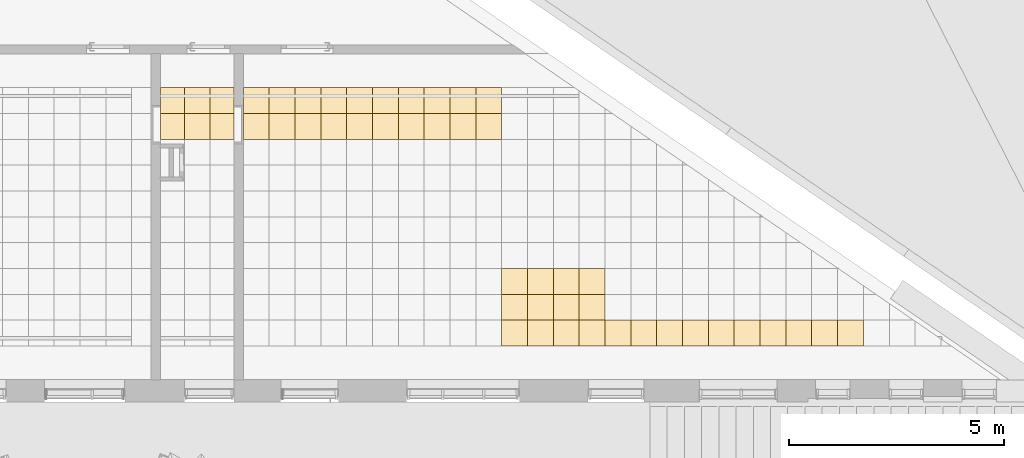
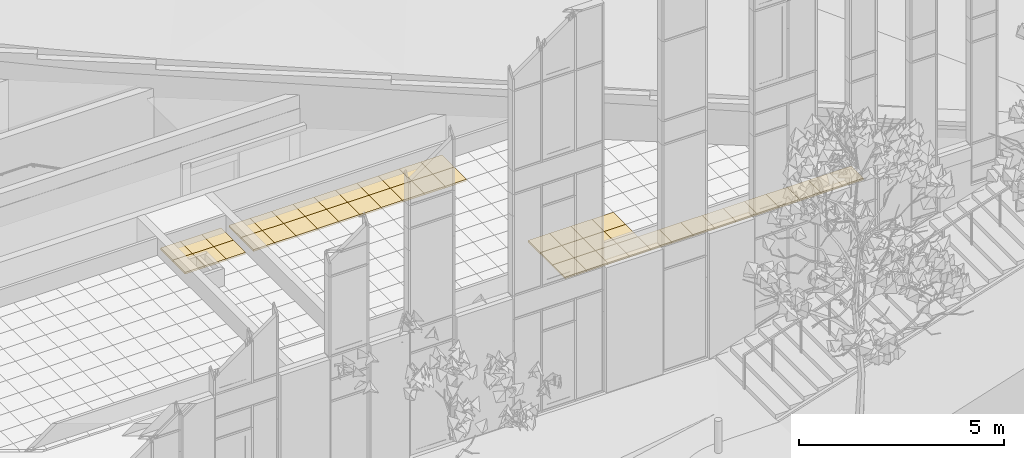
# One storey, part 198 of 246: 48 coverings.
"""IFC2X3 building model written with IfcOpenShell, lengths in millimetres."""

import ifcopenshell
import ifcopenshell.guid

model = None  # the IFC model being written
_history = None  # IfcOwnerHistory: only IFC2X3 demands one
_inside = {}  # id of a spatial element -> (the spatial element, [elements in it])
_under = {}  # id of a project, library or spatial element -> (it, [spatial elements below it])
_declared = {}  # id of a project -> (the project, [libraries it declares])
_typed = {}  # id of a type object -> (the type object, [elements of that type])
_made_of = {}  # id of a material, layer set ... -> (it, [elements and type objects made of it])


def new_model(schema):
    """Start an empty IFC model of exactly this schema.

    Asked for "IFC4X3", IfcOpenShell would pick the latest addendum, in which some entities
    have other attributes; the version numbers below select the first issue.
    IFC2X3 requires an IfcOwnerHistory on every rooted entity: one is made here for all.
    """
    global model, _history
    if schema == "IFC4X3":
        model = ifcopenshell.file(schema_version=(4, 3, 0, 0))
    else:
        model = ifcopenshell.file(schema=schema)
    _inside.clear()
    _under.clear()
    _declared.clear()
    _typed.clear()
    _made_of.clear()
    _history = None
    if model.schema == "IFC2X3":
        org = make("IfcOrganization", Name="unknown")
        user = make(
            "IfcPersonAndOrganization",
            ThePerson=make("IfcPerson", FamilyName="unknown"),
            TheOrganization=org,
        )
        app = make(
            "IfcApplication",
            ApplicationDeveloper=org,
            Version="unknown",
            ApplicationFullName="unknown",
            ApplicationIdentifier="unknown",
        )
        _history = make(
            "IfcOwnerHistory",
            OwningUser=user,
            OwningApplication=app,
            ChangeAction="ADDED",
            CreationDate=0,
        )
    return model


def make(cls, **values):
    """One entity of the class cls with the attributes given. An attribute that is None is left unset."""
    return model.create_entity(
        cls, **{name: value for name, value in values.items() if value is not None}
    )


def entity(cls, *values):
    """Any entity or typed value of the class cls, its attributes in the order of the schema. None: left unset."""
    e = model.create_entity(cls)
    for i, value in enumerate(values):
        if value is not None:
            e[i] = value
    return e


def rooted(cls, **values):
    """An entity with a GlobalId (a new one), such as an element, a storey or a relation."""
    return make(cls, GlobalId=ifcopenshell.guid.new(), OwnerHistory=_history, **values)


def si_unit(unit_type, name, prefix=None):
    """IfcSIUnit, for example si_unit("LENGTHUNIT", "METRE", prefix="MILLI")."""
    return make("IfcSIUnit", UnitType=unit_type, Prefix=prefix, Name=name)


def converted_unit(unit_type, name, factor, base, dimensions=None, offset=None):
    """IfcConversionBasedUnit, such as the inch: factor (a typed value) times the base unit."""
    return make(
        "IfcConversionBasedUnit"
        if offset is None
        else "IfcConversionBasedUnitWithOffset",
        ConversionOffset=offset,
        Dimensions=None
        if dimensions is None
        else entity("IfcDimensionalExponents", *dimensions),
        UnitType=unit_type,
        Name=name,
        ConversionFactor=make(
            "IfcMeasureWithUnit", ValueComponent=factor, UnitComponent=base
        ),
    )


def derived_unit(unit_type, elements):
    """IfcDerivedUnit: a product of units, each with its exponent."""
    return make(
        "IfcDerivedUnit",
        Elements=[
            make("IfcDerivedUnitElement", Unit=unit, Exponent=power)
            for unit, power in elements
        ],
        UnitType=unit_type,
    )


def money_unit(currency):
    """IfcMonetaryUnit."""
    return make("IfcMonetaryUnit", Currency=currency)


def assignment(units):
    """IfcUnitAssignment: the units of a project."""
    return None if units is None else make("IfcUnitAssignment", Units=units)


def point(xyz):
    """IfcCartesianPoint."""
    return None if xyz is None else make("IfcCartesianPoint", Coordinates=xyz)


def direction(xyz):
    """IfcDirection."""
    return None if xyz is None else make("IfcDirection", DirectionRatios=xyz)


def frame(location, z_axis=None, x_axis=None):
    """IfcAxis2Placement3D, a coordinate frame: its origin and axes. An axis left out is left unset."""
    return make(
        "IfcAxis2Placement3D",
        Location=point(location),
        Axis=direction(z_axis),
        RefDirection=direction(x_axis),
    )


def origin_with_axes():
    """The frame at (0, 0, 0) with the z axis (0, 0, 1) and the x axis (1, 0, 0) written out."""
    return frame((0.0, 0.0, 0.0), z_axis=(0.0, 0.0, 1.0), x_axis=(1.0, 0.0, 0.0))


def place(relative_to, where):
    """IfcLocalPlacement: puts the frame where relative to a parent placement (None: the world)."""
    return make(
        "IfcLocalPlacement", PlacementRelTo=relative_to, RelativePlacement=where
    )


def context(
    kind, dimensions, precision=None, world=None, true_north=None, identifier=None
):
    """IfcGeometricRepresentationContext, for example the 3D "Model" context."""
    return make(
        "IfcGeometricRepresentationContext",
        ContextIdentifier=identifier,
        ContextType=kind,
        CoordinateSpaceDimension=dimensions,
        Precision=precision,
        WorldCoordinateSystem=world,
        TrueNorth=true_north,
    )


def subcontext(parent, identifier, kind, view, scale=None):
    """IfcGeometricRepresentationSubContext, for example "Body" below "Model"."""
    return make(
        "IfcGeometricRepresentationSubContext",
        ContextIdentifier=identifier,
        ContextType=kind,
        ParentContext=parent,
        TargetScale=scale,
        TargetView=view,
    )


def project(units=None, contexts=None):
    """IfcProject with its units and contexts."""
    return rooted(
        "IfcProject",
        Name="project",
        RepresentationContexts=contexts,
        UnitsInContext=assignment(units),
    )


def spatial(cls, under=None, at=None, **own):
    """A site, building, storey or space (cls), placed at a placement, below another one or the project."""
    s = rooted(cls, ObjectPlacement=at, **own)
    if under is not None:
        _under.setdefault(under.id(), (under, []))[1].append(s)
    return s


def faces_of(points, faces, orient=None, outer=None):
    """IfcFace entities. A face is a list of loops; a loop is a list of indices into points, from 0.

    orient and outer hold one flag for each loop. By default every Orientation is true, the
    first loop of a face is its IfcFaceOuterBound and the others are IfcFaceBound.
    """
    made = []
    for i, loops in enumerate(faces):
        bounds = []
        for j, loop in enumerate(loops):
            is_outer = j == 0 if outer is None else outer[i][j]
            bounds.append(
                make(
                    "IfcFaceOuterBound" if is_outer else "IfcFaceBound",
                    Bound=make("IfcPolyLoop", Polygon=[points[k] for k in loop]),
                    Orientation=True if orient is None else orient[i][j],
                )
            )
        made.append(make("IfcFace", Bounds=bounds))
    return made


def faceted_brep(points, faces, orient=None, outer=None, voids=None):
    """IfcFacetedBrep: a solid bounded by flat faces; with voids (closed shells), ...WithVoids."""
    shared = [point(p) for p in points]
    hull = make("IfcClosedShell", CfsFaces=faces_of(shared, faces, orient, outer))
    if voids is None:
        return make("IfcFacetedBrep", Outer=hull)
    return make(
        "IfcFacetedBrepWithVoids",
        Outer=hull,
        Voids=[
            make(cls, CfsFaces=faces_of(shared, fs, o, b)) for cls, fs, o, b in voids
        ],
    )


def shape(context_of_items, identifier, shape_type, items):
    """IfcShapeRepresentation: the items that make up one representation, for example the "Body"."""
    return make(
        "IfcShapeRepresentation",
        ContextOfItems=context_of_items,
        RepresentationIdentifier=identifier,
        RepresentationType=shape_type,
        Items=items,
    )


def material(Name=None, Category=None):
    """IfcMaterial."""
    return make("IfcMaterial", Name=Name, Category=Category)


def material_list(materials):
    """IfcMaterialList."""
    return make("IfcMaterialList", Materials=materials)


def made_of(thing, what):
    """Note that an element or type object is made of a material, layer set ...; save() writes the relation."""
    if what is not None:
        _made_of.setdefault(what.id(), (what, []))[1].append(thing)
    return thing


def type_object(cls, material=None, **own):
    """A type object (cls), such as IfcWallType, which elements share."""
    return made_of(rooted(cls, **own), material)


def element(
    cls,
    number,
    at=None,
    inside=None,
    cuts=None,
    type_object=None,
    material=None,
    context=None,
    identifier="Body",
    shape_type=None,
    held_by="IfcProductDefinitionShape",
    body=None,
    shapes=None,
    **own,
):
    """One element of the class cls, such as IfcWall. Its Tag is "e" and its number.

    at: its placement. inside: the storey or other place that contains it. cuts: it is an
    opening in that element (IfcRelVoidsElement). A single representation is given by context,
    identifier, shape_type and body (its items); several are given by shapes. held_by: the class
    of the entity that holds the representations. save() writes the other relations.
    """
    e = rooted(cls, Tag="e%d" % number, ObjectPlacement=at, **own)
    if body is not None:
        shapes = [shape(context, identifier, shape_type, body)]
    if shapes is not None:
        e.Representation = make(held_by, Representations=shapes)
    if inside is not None:
        _inside.setdefault(inside.id(), (inside, []))[1].append(e)
    if cuts is not None:
        rooted(
            "IfcRelVoidsElement", RelatingBuildingElement=cuts, RelatedOpeningElement=e
        )
    if type_object is not None:
        _typed.setdefault(type_object.id(), (type_object, []))[1].append(e)
    return made_of(e, material)


def aggregate(whole, parts):
    """IfcRelAggregates: a whole, such as a stair, and the parts it consists of."""
    return rooted("IfcRelAggregates", RelatingObject=whole, RelatedObjects=parts)


def save(model, path):
    """Write the relations noted so far, then the file.

    IfcRelAggregates (storeys below a building ...), IfcRelContainedInSpatialStructure (elements
    in a storey), IfcRelDefinesByType, IfcRelAssociatesMaterial and IfcRelDeclares: one each for
    every whole, place, type object, material and project.
    """
    for whole, parts in _under.values():
        aggregate(whole, parts)
    for where, things in _inside.values():
        rooted(
            "IfcRelContainedInSpatialStructure",
            RelatedElements=things,
            RelatingStructure=where,
        )
    for kind, things in _typed.values():
        rooted("IfcRelDefinesByType", RelatedObjects=things, RelatingType=kind)
    for what, things in _made_of.values():
        rooted("IfcRelAssociatesMaterial", RelatedObjects=things, RelatingMaterial=what)
    for by, libraries in _declared.values():
        rooted("IfcRelDeclares", RelatingContext=by, RelatedDefinitions=libraries)
    model.write(path)


model = new_model("IFC2X3")

# Units and contexts
model_context = context("Model", 3, precision=0.01, world=origin_with_axes(), true_north=direction((0.0, 1.0)))
body_context = subcontext(model_context, "Body", "Model", "MODEL_VIEW")
ifc_project = project(units=[si_unit("LENGTHUNIT", "METRE", prefix="MILLI"), si_unit("AREAUNIT", "SQUARE_METRE"), si_unit("VOLUMEUNIT", "CUBIC_METRE"), converted_unit("PLANEANGLEUNIT", "DEGREE", entity("IfcPlaneAngleMeasure", 0.0174532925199), si_unit("PLANEANGLEUNIT", "RADIAN"), dimensions=[0, 0, 0, 0, 0, 0, 0]), si_unit("SOLIDANGLEUNIT", "STERADIAN"), money_unit("EUR"), converted_unit("TIMEUNIT", "Year", entity("IfcTimeMeasure", 31556926.0), si_unit("TIMEUNIT", "SECOND"), dimensions=[0, 0, 1, 0, 0, 0, 0]), si_unit("MASSUNIT", "GRAM", prefix="KILO"), si_unit("THERMODYNAMICTEMPERATUREUNIT", "DEGREE_CELSIUS"), si_unit("LUMINOUSINTENSITYUNIT", "LUMEN"), si_unit("ENERGYUNIT", "JOULE", prefix="MEGA"), derived_unit("THERMALCONDUCTANCEUNIT", [(si_unit("POWERUNIT", "WATT"), 1), (si_unit("LENGTHUNIT", "METRE"), -1), (si_unit("THERMODYNAMICTEMPERATUREUNIT", "KELVIN"), -1)]), derived_unit("SPECIFICHEATCAPACITYUNIT", [(si_unit("ENERGYUNIT", "JOULE"), 1), (si_unit("MASSUNIT", "GRAM", prefix="KILO"), -1), (si_unit("THERMODYNAMICTEMPERATUREUNIT", "KELVIN"), -1)]), derived_unit("MASSDENSITYUNIT", [(si_unit("MASSUNIT", "GRAM", prefix="KILO"), 1), (si_unit("VOLUMEUNIT", "CUBIC_METRE"), -1)])], contexts=[model_context])

# Site, building, storey
site_placement = place(None, origin_with_axes())
site = spatial("IfcSite", under=ifc_project, at=site_placement, Name="L.Koidula tn 11b", CompositionType="ELEMENT")
building_placement = place(site_placement, origin_with_axes())
building = spatial("IfcBuilding", under=site, at=building_placement, Name="Rakvere Riigigümnaasium", CompositionType="ELEMENT")
storey_placement = place(building_placement, origin_with_axes())
storey = spatial("IfcBuildingStorey", under=building, at=storey_placement, Name="1.korrus 0,00", CompositionType="ELEMENT", Elevation=0.0)

# Coverings
ifc_material_1 = material(Name="Karkass")
ifc_material_2 = material(Name="Kipsplaat")
ifc_material_list = material_list([ifc_material_1, ifc_material_2])
covering_type = type_object("IfcCoveringType", Name="SA-LV-Kips-moodul 55", PredefinedType="CEILING")
covering_1_placement = place(storey_placement, frame((83189.6975144, 12290.4544728, 2750.0), z_axis=(0.0, 0.0, 1.0), x_axis=(1.0, 0.0, 0.0)))
element("IfcCovering", 1, at=covering_1_placement, inside=storey, type_object=covering_type, material=ifc_material_list, Name="L-03", PredefinedType="CEILING", context=body_context, shape_type="Brep", body=[
    faceted_brep([(0.0, -600.000009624, 12.5), (0.0, -600.000009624, 54.5), (0.0, 0.0, 54.5), (0.0, 0.0, 12.5), (550.000008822, -600.000009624, 12.5), (550.000008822, -600.000009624, 54.5), (550.000008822, 0.0, 54.5), (550.000008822, 0.0, 12.5)], [[[0, 1, 2, 3]], [[4, 5, 1, 0]], [[2, 1, 5, 6]], [[3, 2, 6, 7]], [[3, 7, 4, 0]], [[7, 6, 5, 4]]]),
    faceted_brep([(0.0, 0.0, 0.0), (0.0, -600.000009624, 0.0), (0.0, -600.000009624, 12.5), (0.0, 0.0, 12.5), (550.000008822, 0.0, 0.0), (550.000008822, -600.000009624, 0.0), (550.000008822, -600.000009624, 12.5), (550.000008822, 0.0, 12.5)], [[[0, 1, 2, 3]], [[0, 4, 5, 1]], [[1, 5, 6, 2]], [[3, 2, 6, 7]], [[4, 0, 3, 7]], [[5, 4, 7, 6]]]),
])
covering_2_placement = place(storey_placement, frame((84339.6975008, 12290.4544728, 2750.0), z_axis=(0.0, 0.0, 1.0), x_axis=(1.0, 0.0, 0.0)))
element("IfcCovering", 2, at=covering_2_placement, inside=storey, type_object=covering_type, material=ifc_material_list, Name="L-03", PredefinedType="CEILING", context=body_context, shape_type="Brep", body=[
    faceted_brep([(-600.000009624, 0.0, 12.5), (-600.000009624, 0.0, 54.5), (0.0, 0.0, 54.5), (0.0, 0.0, 12.5), (-600.000009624, -600.000009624, 12.5), (-600.000009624, -600.000009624, 54.5), (0.0, -600.000009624, 54.5), (0.0, -600.000009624, 12.5)], [[[0, 1, 2, 3]], [[4, 5, 1, 0]], [[2, 1, 5, 6]], [[3, 2, 6, 7]], [[3, 7, 4, 0]], [[7, 6, 5, 4]]]),
    faceted_brep([(0.0, 0.0, 0.0), (-600.000009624, 0.0, 0.0), (-600.000009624, 0.0, 12.5), (0.0, 0.0, 12.5), (0.0, -600.000009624, 0.0), (-600.000009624, -600.000009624, 0.0), (-600.000009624, -600.000009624, 12.5), (0.0, -600.000009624, 12.5)], [[[0, 1, 2, 3]], [[0, 4, 5, 1]], [[1, 5, 6, 2]], [[3, 2, 6, 7]], [[4, 0, 3, 7]], [[5, 4, 7, 6]]]),
])
covering_3_placement = place(storey_placement, frame((84339.697518, 11690.4544728, 2750.0), z_axis=(0.0, 0.0, 1.0), x_axis=(1.0, 0.0, 0.0)))
element("IfcCovering", 3, at=covering_3_placement, inside=storey, type_object=covering_type, material=ifc_material_list, Name="L-03", PredefinedType="CEILING", context=body_context, shape_type="Brep", body=[
    faceted_brep([(-600.000009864, 0.0, 12.5), (-600.000009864, 0.0, 54.5), (0.0, 0.0, 54.5), (0.0, 0.0, 12.5), (-600.000009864, -600.000009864, 12.5), (-600.000009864, -600.000009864, 54.5), (0.0, -600.000009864, 54.5), (0.0, -600.000009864, 12.5)], [[[0, 1, 2, 3]], [[4, 5, 1, 0]], [[2, 1, 5, 6]], [[3, 2, 6, 7]], [[3, 7, 4, 0]], [[7, 6, 5, 4]]]),
    faceted_brep([(0.0, 0.0, 0.0), (-600.000009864, 0.0, 0.0), (-600.000009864, 0.0, 12.5), (0.0, 0.0, 12.5), (0.0, -600.000009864, 0.0), (-600.000009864, -600.000009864, 0.0), (-600.000009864, -600.000009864, 12.5), (0.0, -600.000009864, 12.5)], [[[0, 1, 2, 3]], [[0, 4, 5, 1]], [[1, 5, 6, 2]], [[3, 2, 6, 7]], [[4, 0, 3, 7]], [[5, 4, 7, 6]]]),
])
covering_4_placement = place(storey_placement, frame((83189.6975068, 11690.4544728, 2750.0), z_axis=(0.0, 0.0, 1.0), x_axis=(1.0, 0.0, 0.0)))
element("IfcCovering", 4, at=covering_4_placement, inside=storey, type_object=covering_type, material=ifc_material_list, Name="L-03", PredefinedType="CEILING", context=body_context, shape_type="Brep", body=[
    faceted_brep([(0.0, -600.000009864, 12.5), (0.0, -600.000009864, 54.5), (0.0, 0.0, 54.5), (0.0, 0.0, 12.5), (550.000001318, -600.000009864, 12.5), (550.000001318, -600.000009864, 54.5), (550.000001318, 0.0, 54.5), (550.000001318, 0.0, 12.5)], [[[0, 1, 2, 3]], [[4, 5, 1, 0]], [[2, 1, 5, 6]], [[3, 2, 6, 7]], [[3, 7, 4, 0]], [[7, 6, 5, 4]]]),
    faceted_brep([(0.0, 0.0, 0.0), (0.0, -600.000009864, 0.0), (0.0, -600.000009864, 12.5), (0.0, 0.0, 12.5), (550.000001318, 0.0, 0.0), (550.000001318, -600.000009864, 0.0), (550.000001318, -600.000009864, 12.5), (550.000001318, 0.0, 12.5)], [[[0, 1, 2, 3]], [[0, 4, 5, 1]], [[1, 5, 6, 2]], [[3, 2, 6, 7]], [[4, 0, 3, 7]], [[5, 4, 7, 6]]]),
])
covering_5_placement = place(storey_placement, frame((84889.6975096, 12290.4544728, 2750.0), z_axis=(0.0, 0.0, 1.0), x_axis=(1.0, 0.0, 0.0)))
element("IfcCovering", 5, at=covering_5_placement, inside=storey, type_object=covering_type, material=ifc_material_list, Name="L-03", PredefinedType="CEILING", context=body_context, shape_type="Brep", body=[
    faceted_brep([(-550.000008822, 0.0, 12.5), (-550.000008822, 0.0, 54.5), (0.0, 0.0, 54.5), (0.0, 0.0, 12.5), (-550.000008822, -600.000009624, 12.5), (-550.000008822, -600.000009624, 54.5), (0.0, -600.000009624, 54.5), (0.0, -600.000009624, 12.5)], [[[0, 1, 2, 3]], [[4, 5, 1, 0]], [[2, 1, 5, 6]], [[3, 2, 6, 7]], [[3, 7, 4, 0]], [[7, 6, 5, 4]]]),
    faceted_brep([(0.0, 0.0, 0.0), (-550.000008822, 0.0, 0.0), (-550.000008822, 0.0, 12.5), (0.0, 0.0, 12.5), (0.0, -600.000009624, 0.0), (-550.000008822, -600.000009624, 0.0), (-550.000008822, -600.000009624, 12.5), (0.0, -600.000009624, 12.5)], [[[0, 1, 2, 3]], [[0, 4, 5, 1]], [[1, 5, 6, 2]], [[3, 2, 6, 7]], [[4, 0, 3, 7]], [[5, 4, 7, 6]]]),
])
covering_6_placement = place(storey_placement, frame((84889.6975109, 11690.4544735, 2750.0), z_axis=(0.0, 0.0, 1.0), x_axis=(1.0, 0.0, 0.0)))
element("IfcCovering", 6, at=covering_6_placement, inside=storey, type_object=covering_type, material=ifc_material_list, Name="L-03", PredefinedType="CEILING", context=body_context, shape_type="Brep", body=[
    faceted_brep([(-550.0, 0.0, 12.5), (-550.0, 0.0, 54.5), (0.0, 0.0, 54.5), (0.0, 0.0, 12.5), (-550.0, -600.0, 12.5), (-550.0, -600.0, 54.5), (0.0, -600.0, 54.5), (0.0, -600.0, 12.5)], [[[0, 1, 2, 3]], [[4, 5, 1, 0]], [[2, 1, 5, 6]], [[3, 2, 6, 7]], [[3, 7, 4, 0]], [[7, 6, 5, 4]]]),
    faceted_brep([(0.0, 0.0, 0.0), (-550.0, 0.0, 0.0), (-550.0, 0.0, 12.5), (0.0, 0.0, 12.5), (0.0, -600.0, 0.0), (-550.0, -600.0, 0.0), (-550.0, -600.0, 12.5), (0.0, -600.0, 12.5)], [[[0, 1, 2, 3]], [[0, 4, 5, 1]], [[1, 5, 6, 2]], [[3, 2, 6, 7]], [[4, 0, 3, 7]], [[5, 4, 7, 6]]]),
])
for number, where, z_axis, x_axis, name in (
    (7, (85709.885345, 11090.4535941, 2750.0), (0.0, 0.0, 1.0), (1.0, 0.0, 0.0), "L-03"),
    (8, (85709.885345, 11690.4535941, 2750.0), (0.0, 0.0, 1.0), (1.0, 0.0, 0.0), "L-03"),
):
    element("IfcCovering", number, at=place(storey_placement, frame(where, z_axis=z_axis, x_axis=x_axis)), inside=storey, type_object=covering_type, material=ifc_material_list, Name=name, PredefinedType="CEILING", context=body_context, shape_type="Brep", body=[
        faceted_brep([(599.999948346, 0.0, 12.5), (599.999948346, 0.0, 54.5), (0.0, 0.0, 54.5), (0.0, 0.0, 12.5), (599.999948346, 600.0, 12.5), (599.999948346, 600.0, 54.5), (0.0, 600.0, 54.5), (0.0, 600.0, 12.5)], [[[0, 1, 2, 3]], [[4, 5, 1, 0]], [[2, 1, 5, 6]], [[3, 2, 6, 7]], [[3, 7, 4, 0]], [[7, 6, 5, 4]]]),
        faceted_brep([(0.0, 0.0, 0.0), (599.999948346, 0.0, 0.0), (599.999948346, 0.0, 12.5), (0.0, 0.0, 12.5), (0.0, 600.0, 0.0), (599.999948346, 600.0, 0.0), (599.999948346, 600.0, 12.5), (0.0, 600.0, 12.5)], [[[0, 1, 2, 3]], [[0, 4, 5, 1]], [[1, 5, 6, 2]], [[3, 2, 6, 7]], [[4, 0, 3, 7]], [[5, 4, 7, 6]]]),
    ])
for number, where, z_axis, x_axis, name in (
    (9, (85109.885345, 11090.4535941, 2750.0), (0.0, 0.0, 1.0), (1.0, 0.0, 0.0), "L-03"),
    (10, (85109.885345, 11690.4535941, 2750.0), (0.0, 0.0, 1.0), (1.0, 0.0, 0.0), "L-03"),
):
    element("IfcCovering", number, at=place(storey_placement, frame(where, z_axis=z_axis, x_axis=x_axis)), inside=storey, type_object=covering_type, material=ifc_material_list, Name=name, PredefinedType="CEILING", context=body_context, shape_type="Brep", body=[
        faceted_brep([(600.0, 0.0, 12.5), (600.0, 0.0, 54.5), (0.0, 0.0, 54.5), (0.0, 0.0, 12.5), (600.0, 600.0, 12.5), (600.0, 600.0, 54.5), (0.0, 600.0, 54.5), (0.0, 600.0, 12.5)], [[[0, 1, 2, 3]], [[4, 5, 1, 0]], [[2, 1, 5, 6]], [[3, 2, 6, 7]], [[3, 7, 4, 0]], [[7, 6, 5, 4]]]),
        faceted_brep([(0.0, 0.0, 0.0), (600.0, 0.0, 0.0), (600.0, 0.0, 12.5), (0.0, 0.0, 12.5), (0.0, 600.0, 0.0), (600.0, 600.0, 0.0), (600.0, 600.0, 12.5), (0.0, 600.0, 12.5)], [[[0, 1, 2, 3]], [[0, 4, 5, 1]], [[1, 5, 6, 2]], [[3, 2, 6, 7]], [[4, 0, 3, 7]], [[5, 4, 7, 6]]]),
    ])
for number, where, z_axis, x_axis, name in (
    (11, (86909.8852933, 11090.4535941, 2750.0), (0.0, 0.0, 1.0), (1.0, 0.0, 0.0), "L-03"),
    (12, (86909.8852933, 11690.4535941, 2750.0), (0.0, 0.0, 1.0), (1.0, 0.0, 0.0), "L-03"),
):
    element("IfcCovering", number, at=place(storey_placement, frame(where, z_axis=z_axis, x_axis=x_axis)), inside=storey, type_object=covering_type, material=ifc_material_list, Name=name, PredefinedType="CEILING", context=body_context, shape_type="Brep", body=[
        faceted_brep([(599.999948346, 0.0, 12.5), (599.999948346, 0.0, 54.5), (0.0, 0.0, 54.5), (0.0, 0.0, 12.5), (599.999948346, 600.0, 12.5), (599.999948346, 600.0, 54.5), (0.0, 600.0, 54.5), (0.0, 600.0, 12.5)], [[[0, 1, 2, 3]], [[4, 5, 1, 0]], [[2, 1, 5, 6]], [[3, 2, 6, 7]], [[3, 7, 4, 0]], [[7, 6, 5, 4]]]),
        faceted_brep([(0.0, 0.0, 0.0), (599.999948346, 0.0, 0.0), (599.999948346, 0.0, 12.5), (0.0, 0.0, 12.5), (0.0, 600.0, 0.0), (599.999948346, 600.0, 0.0), (599.999948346, 600.0, 12.5), (0.0, 600.0, 12.5)], [[[0, 1, 2, 3]], [[0, 4, 5, 1]], [[1, 5, 6, 2]], [[3, 2, 6, 7]], [[4, 0, 3, 7]], [[5, 4, 7, 6]]]),
    ])
for number, where, z_axis, x_axis, name in (
    (13, (86309.8852933, 11090.4535941, 2750.0), (0.0, 0.0, 1.0), (1.0, 0.0, 0.0), "L-03"),
    (14, (86309.8852933, 11690.4535941, 2750.0), (0.0, 0.0, 1.0), (1.0, 0.0, 0.0), "L-03"),
):
    element("IfcCovering", number, at=place(storey_placement, frame(where, z_axis=z_axis, x_axis=x_axis)), inside=storey, type_object=covering_type, material=ifc_material_list, Name=name, PredefinedType="CEILING", context=body_context, shape_type="Brep", body=[
        faceted_brep([(600.0, 0.0, 12.5), (600.0, 0.0, 54.5), (0.0, 0.0, 54.5), (0.0, 0.0, 12.5), (600.0, 600.0, 12.5), (600.0, 600.0, 54.5), (0.0, 600.0, 54.5), (0.0, 600.0, 12.5)], [[[0, 1, 2, 3]], [[4, 5, 1, 0]], [[2, 1, 5, 6]], [[3, 2, 6, 7]], [[3, 7, 4, 0]], [[7, 6, 5, 4]]]),
        faceted_brep([(0.0, 0.0, 0.0), (600.0, 0.0, 0.0), (600.0, 0.0, 12.5), (0.0, 0.0, 12.5), (0.0, 600.0, 0.0), (600.0, 600.0, 0.0), (600.0, 600.0, 12.5), (0.0, 600.0, 12.5)], [[[0, 1, 2, 3]], [[0, 4, 5, 1]], [[1, 5, 6, 2]], [[3, 2, 6, 7]], [[4, 0, 3, 7]], [[5, 4, 7, 6]]]),
    ])
for number, where, z_axis, x_axis, name in (
    (15, (88109.8852417, 11090.4535941, 2750.0), (0.0, 0.0, 1.0), (1.0, 0.0, 0.0), "L-03"),
    (16, (88109.8852417, 11690.4535941, 2750.0), (0.0, 0.0, 1.0), (1.0, 0.0, 0.0), "L-03"),
):
    element("IfcCovering", number, at=place(storey_placement, frame(where, z_axis=z_axis, x_axis=x_axis)), inside=storey, type_object=covering_type, material=ifc_material_list, Name=name, PredefinedType="CEILING", context=body_context, shape_type="Brep", body=[
        faceted_brep([(599.999948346, 0.0, 12.5), (599.999948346, 0.0, 54.5), (0.0, 0.0, 54.5), (0.0, 0.0, 12.5), (599.999948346, 600.0, 12.5), (599.999948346, 600.0, 54.5), (0.0, 600.0, 54.5), (0.0, 600.0, 12.5)], [[[0, 1, 2, 3]], [[4, 5, 1, 0]], [[2, 1, 5, 6]], [[3, 2, 6, 7]], [[3, 7, 4, 0]], [[7, 6, 5, 4]]]),
        faceted_brep([(0.0, 0.0, 0.0), (599.999948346, 0.0, 0.0), (599.999948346, 0.0, 12.5), (0.0, 0.0, 12.5), (0.0, 600.0, 0.0), (599.999948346, 600.0, 0.0), (599.999948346, 600.0, 12.5), (0.0, 600.0, 12.5)], [[[0, 1, 2, 3]], [[0, 4, 5, 1]], [[1, 5, 6, 2]], [[3, 2, 6, 7]], [[4, 0, 3, 7]], [[5, 4, 7, 6]]]),
    ])
for number, where, z_axis, x_axis, name in (
    (17, (87509.8852417, 11090.4535941, 2750.0), (0.0, 0.0, 1.0), (1.0, 0.0, 0.0), "L-03"),
    (18, (87509.8852417, 11690.4535941, 2750.0), (0.0, 0.0, 1.0), (1.0, 0.0, 0.0), "L-03"),
):
    element("IfcCovering", number, at=place(storey_placement, frame(where, z_axis=z_axis, x_axis=x_axis)), inside=storey, type_object=covering_type, material=ifc_material_list, Name=name, PredefinedType="CEILING", context=body_context, shape_type="Brep", body=[
        faceted_brep([(600.0, 0.0, 12.5), (600.0, 0.0, 54.5), (0.0, 0.0, 54.5), (0.0, 0.0, 12.5), (600.0, 600.0, 12.5), (600.0, 600.0, 54.5), (0.0, 600.0, 54.5), (0.0, 600.0, 12.5)], [[[0, 1, 2, 3]], [[4, 5, 1, 0]], [[2, 1, 5, 6]], [[3, 2, 6, 7]], [[3, 7, 4, 0]], [[7, 6, 5, 4]]]),
        faceted_brep([(0.0, 0.0, 0.0), (600.0, 0.0, 0.0), (600.0, 0.0, 12.5), (0.0, 0.0, 12.5), (0.0, 600.0, 0.0), (600.0, 600.0, 0.0), (600.0, 600.0, 12.5), (0.0, 600.0, 12.5)], [[[0, 1, 2, 3]], [[0, 4, 5, 1]], [[1, 5, 6, 2]], [[3, 2, 6, 7]], [[4, 0, 3, 7]], [[5, 4, 7, 6]]]),
    ])
for number, where, z_axis, x_axis, name in (
    (19, (89309.88519, 11090.4535941, 2750.0), (0.0, 0.0, 1.0), (1.0, 0.0, 0.0), "L-03"),
    (20, (89309.88519, 11690.4535941, 2750.0), (0.0, 0.0, 1.0), (1.0, 0.0, 0.0), "L-03"),
):
    element("IfcCovering", number, at=place(storey_placement, frame(where, z_axis=z_axis, x_axis=x_axis)), inside=storey, type_object=covering_type, material=ifc_material_list, Name=name, PredefinedType="CEILING", context=body_context, shape_type="Brep", body=[
        faceted_brep([(599.999948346, 0.0, 12.5), (599.999948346, 0.0, 54.5), (0.0, 0.0, 54.5), (0.0, 0.0, 12.5), (599.999948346, 600.0, 12.5), (599.999948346, 600.0, 54.5), (0.0, 600.0, 54.5), (0.0, 600.0, 12.5)], [[[0, 1, 2, 3]], [[4, 5, 1, 0]], [[2, 1, 5, 6]], [[3, 2, 6, 7]], [[3, 7, 4, 0]], [[7, 6, 5, 4]]]),
        faceted_brep([(0.0, 0.0, 0.0), (599.999948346, 0.0, 0.0), (599.999948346, 0.0, 12.5), (0.0, 0.0, 12.5), (0.0, 600.0, 0.0), (599.999948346, 600.0, 0.0), (599.999948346, 600.0, 12.5), (0.0, 600.0, 12.5)], [[[0, 1, 2, 3]], [[0, 4, 5, 1]], [[1, 5, 6, 2]], [[3, 2, 6, 7]], [[4, 0, 3, 7]], [[5, 4, 7, 6]]]),
    ])
for number, where, z_axis, x_axis, name in (
    (21, (88709.88519, 11090.4535941, 2750.0), (0.0, 0.0, 1.0), (1.0, 0.0, 0.0), "L-03"),
    (22, (88709.88519, 11690.4535941, 2750.0), (0.0, 0.0, 1.0), (1.0, 0.0, 0.0), "L-03"),
):
    element("IfcCovering", number, at=place(storey_placement, frame(where, z_axis=z_axis, x_axis=x_axis)), inside=storey, type_object=covering_type, material=ifc_material_list, Name=name, PredefinedType="CEILING", context=body_context, shape_type="Brep", body=[
        faceted_brep([(600.0, 0.0, 12.5), (600.0, 0.0, 54.5), (0.0, 0.0, 54.5), (0.0, 0.0, 12.5), (600.0, 600.0, 12.5), (600.0, 600.0, 54.5), (0.0, 600.0, 54.5), (0.0, 600.0, 12.5)], [[[0, 1, 2, 3]], [[4, 5, 1, 0]], [[2, 1, 5, 6]], [[3, 2, 6, 7]], [[3, 7, 4, 0]], [[7, 6, 5, 4]]]),
        faceted_brep([(0.0, 0.0, 0.0), (600.0, 0.0, 0.0), (600.0, 0.0, 12.5), (0.0, 0.0, 12.5), (0.0, 600.0, 0.0), (600.0, 600.0, 0.0), (600.0, 600.0, 12.5), (0.0, 600.0, 12.5)], [[[0, 1, 2, 3]], [[0, 4, 5, 1]], [[1, 5, 6, 2]], [[3, 2, 6, 7]], [[4, 0, 3, 7]], [[5, 4, 7, 6]]]),
    ])
for number, where, z_axis, x_axis, name in (
    (23, (90509.8851384, 11090.4535941, 2750.0), (0.0, 0.0, 1.0), (1.0, 0.0, 0.0), "L-03"),
    (24, (90509.8851384, 11690.4535941, 2750.0), (0.0, 0.0, 1.0), (1.0, 0.0, 0.0), "L-03"),
):
    element("IfcCovering", number, at=place(storey_placement, frame(where, z_axis=z_axis, x_axis=x_axis)), inside=storey, type_object=covering_type, material=ifc_material_list, Name=name, PredefinedType="CEILING", context=body_context, shape_type="Brep", body=[
        faceted_brep([(599.999948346, 0.0, 12.5), (599.999948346, 0.0, 54.5), (0.0, 0.0, 54.5), (0.0, 0.0, 12.5), (599.999948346, 600.0, 12.5), (599.999948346, 600.0, 54.5), (0.0, 600.0, 54.5), (0.0, 600.0, 12.5)], [[[0, 1, 2, 3]], [[4, 5, 1, 0]], [[2, 1, 5, 6]], [[3, 2, 6, 7]], [[3, 7, 4, 0]], [[7, 6, 5, 4]]]),
        faceted_brep([(0.0, 0.0, 0.0), (599.999948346, 0.0, 0.0), (599.999948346, 0.0, 12.5), (0.0, 0.0, 12.5), (0.0, 600.0, 0.0), (599.999948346, 600.0, 0.0), (599.999948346, 600.0, 12.5), (0.0, 600.0, 12.5)], [[[0, 1, 2, 3]], [[0, 4, 5, 1]], [[1, 5, 6, 2]], [[3, 2, 6, 7]], [[4, 0, 3, 7]], [[5, 4, 7, 6]]]),
    ])
for number, where, z_axis, x_axis, name in (
    (25, (89909.8851384, 11090.4535941, 2750.0), (0.0, 0.0, 1.0), (1.0, 0.0, 0.0), "L-03"),
    (26, (89909.8851384, 11690.4535941, 2750.0), (0.0, 0.0, 1.0), (1.0, 0.0, 0.0), "L-03"),
):
    element("IfcCovering", number, at=place(storey_placement, frame(where, z_axis=z_axis, x_axis=x_axis)), inside=storey, type_object=covering_type, material=ifc_material_list, Name=name, PredefinedType="CEILING", context=body_context, shape_type="Brep", body=[
        faceted_brep([(600.0, 0.0, 12.5), (600.0, 0.0, 54.5), (0.0, 0.0, 54.5), (0.0, 0.0, 12.5), (600.0, 600.0, 12.5), (600.0, 600.0, 54.5), (0.0, 600.0, 54.5), (0.0, 600.0, 12.5)], [[[0, 1, 2, 3]], [[4, 5, 1, 0]], [[2, 1, 5, 6]], [[3, 2, 6, 7]], [[3, 7, 4, 0]], [[7, 6, 5, 4]]]),
        faceted_brep([(0.0, 0.0, 0.0), (600.0, 0.0, 0.0), (600.0, 0.0, 12.5), (0.0, 0.0, 12.5), (0.0, 600.0, 0.0), (600.0, 600.0, 0.0), (600.0, 600.0, 12.5), (0.0, 600.0, 12.5)], [[[0, 1, 2, 3]], [[0, 4, 5, 1]], [[1, 5, 6, 2]], [[3, 2, 6, 7]], [[4, 0, 3, 7]], [[5, 4, 7, 6]]]),
    ])
for number, where, z_axis, x_axis, name in (
    (27, (91709.8850867, 7490.45359412, 2750.0), (0.0, 0.0, 1.0), (1.0, 0.0, 0.0), "L-03"),
    (28, (91709.8850867, 6290.45359412, 2750.0), (0.0, 0.0, 1.0), (1.0, 0.0, 0.0), "L-03"),
    (29, (91709.8850867, 6890.45359412, 2750.0), (0.0, 0.0, 1.0), (1.0, 0.0, 0.0), "L-03"),
):
    element("IfcCovering", number, at=place(storey_placement, frame(where, z_axis=z_axis, x_axis=x_axis)), inside=storey, type_object=covering_type, material=ifc_material_list, Name=name, PredefinedType="CEILING", context=body_context, shape_type="Brep", body=[
        faceted_brep([(599.999948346, 0.0, 12.5), (599.999948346, 0.0, 54.5), (0.0, 0.0, 54.5), (0.0, 0.0, 12.5), (599.999948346, 600.0, 12.5), (599.999948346, 600.0, 54.5), (0.0, 600.0, 54.5), (0.0, 600.0, 12.5)], [[[0, 1, 2, 3]], [[4, 5, 1, 0]], [[2, 1, 5, 6]], [[3, 2, 6, 7]], [[3, 7, 4, 0]], [[7, 6, 5, 4]]]),
        faceted_brep([(0.0, 0.0, 0.0), (599.999948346, 0.0, 0.0), (599.999948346, 0.0, 12.5), (0.0, 0.0, 12.5), (0.0, 600.0, 0.0), (599.999948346, 600.0, 0.0), (599.999948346, 600.0, 12.5), (0.0, 600.0, 12.5)], [[[0, 1, 2, 3]], [[0, 4, 5, 1]], [[1, 5, 6, 2]], [[3, 2, 6, 7]], [[4, 0, 3, 7]], [[5, 4, 7, 6]]]),
    ])
for number, where, z_axis, x_axis, name in (
    (30, (91109.8850867, 7490.45359412, 2750.0), (0.0, 0.0, 1.0), (1.0, 0.0, 0.0), "L-03"),
    (31, (91109.8850867, 6290.45359412, 2750.0), (0.0, 0.0, 1.0), (1.0, 0.0, 0.0), "L-03"),
    (32, (91109.8850867, 6890.45359412, 2750.0), (0.0, 0.0, 1.0), (1.0, 0.0, 0.0), "L-03"),
):
    element("IfcCovering", number, at=place(storey_placement, frame(where, z_axis=z_axis, x_axis=x_axis)), inside=storey, type_object=covering_type, material=ifc_material_list, Name=name, PredefinedType="CEILING", context=body_context, shape_type="Brep", body=[
        faceted_brep([(600.0, 0.0, 12.5), (600.0, 0.0, 54.5), (0.0, 0.0, 54.5), (0.0, 0.0, 12.5), (600.0, 600.0, 12.5), (600.0, 600.0, 54.5), (0.0, 600.0, 54.5), (0.0, 600.0, 12.5)], [[[0, 1, 2, 3]], [[4, 5, 1, 0]], [[2, 1, 5, 6]], [[3, 2, 6, 7]], [[3, 7, 4, 0]], [[7, 6, 5, 4]]]),
        faceted_brep([(0.0, 0.0, 0.0), (600.0, 0.0, 0.0), (600.0, 0.0, 12.5), (0.0, 0.0, 12.5), (0.0, 600.0, 0.0), (600.0, 600.0, 0.0), (600.0, 600.0, 12.5), (0.0, 600.0, 12.5)], [[[0, 1, 2, 3]], [[0, 4, 5, 1]], [[1, 5, 6, 2]], [[3, 2, 6, 7]], [[4, 0, 3, 7]], [[5, 4, 7, 6]]]),
    ])
for number, where, z_axis, x_axis, name in (
    (33, (92909.8850351, 7490.45359412, 2750.0), (0.0, 0.0, 1.0), (1.0, 0.0, 0.0), "L-03"),
    (34, (92909.8850351, 6290.45359412, 2750.0), (0.0, 0.0, 1.0), (1.0, 0.0, 0.0), "L-03"),
    (35, (92909.8850351, 6890.45359412, 2750.0), (0.0, 0.0, 1.0), (1.0, 0.0, 0.0), "L-03"),
):
    element("IfcCovering", number, at=place(storey_placement, frame(where, z_axis=z_axis, x_axis=x_axis)), inside=storey, type_object=covering_type, material=ifc_material_list, Name=name, PredefinedType="CEILING", context=body_context, shape_type="Brep", body=[
        faceted_brep([(599.999948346, 0.0, 12.5), (599.999948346, 0.0, 54.5), (0.0, 0.0, 54.5), (0.0, 0.0, 12.5), (599.999948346, 600.0, 12.5), (599.999948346, 600.0, 54.5), (0.0, 600.0, 54.5), (0.0, 600.0, 12.5)], [[[0, 1, 2, 3]], [[4, 5, 1, 0]], [[2, 1, 5, 6]], [[3, 2, 6, 7]], [[3, 7, 4, 0]], [[7, 6, 5, 4]]]),
        faceted_brep([(0.0, 0.0, 0.0), (599.999948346, 0.0, 0.0), (599.999948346, 0.0, 12.5), (0.0, 0.0, 12.5), (0.0, 600.0, 0.0), (599.999948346, 600.0, 0.0), (599.999948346, 600.0, 12.5), (0.0, 600.0, 12.5)], [[[0, 1, 2, 3]], [[0, 4, 5, 1]], [[1, 5, 6, 2]], [[3, 2, 6, 7]], [[4, 0, 3, 7]], [[5, 4, 7, 6]]]),
    ])
for number, where, z_axis, x_axis, name in (
    (36, (92309.8850351, 7490.45359412, 2750.0), (0.0, 0.0, 1.0), (1.0, 0.0, 0.0), "L-03"),
    (37, (92309.8850351, 6290.45359412, 2750.0), (0.0, 0.0, 1.0), (1.0, 0.0, 0.0), "L-03"),
    (38, (92309.8850351, 6890.45359412, 2750.0), (0.0, 0.0, 1.0), (1.0, 0.0, 0.0), "L-03"),
):
    element("IfcCovering", number, at=place(storey_placement, frame(where, z_axis=z_axis, x_axis=x_axis)), inside=storey, type_object=covering_type, material=ifc_material_list, Name=name, PredefinedType="CEILING", context=body_context, shape_type="Brep", body=[
        faceted_brep([(600.0, 0.0, 12.5), (600.0, 0.0, 54.5), (0.0, 0.0, 54.5), (0.0, 0.0, 12.5), (600.0, 600.0, 12.5), (600.0, 600.0, 54.5), (0.0, 600.0, 54.5), (0.0, 600.0, 12.5)], [[[0, 1, 2, 3]], [[4, 5, 1, 0]], [[2, 1, 5, 6]], [[3, 2, 6, 7]], [[3, 7, 4, 0]], [[7, 6, 5, 4]]]),
        faceted_brep([(0.0, 0.0, 0.0), (600.0, 0.0, 0.0), (600.0, 0.0, 12.5), (0.0, 0.0, 12.5), (0.0, 600.0, 0.0), (600.0, 600.0, 0.0), (600.0, 600.0, 12.5), (0.0, 600.0, 12.5)], [[[0, 1, 2, 3]], [[0, 4, 5, 1]], [[1, 5, 6, 2]], [[3, 2, 6, 7]], [[4, 0, 3, 7]], [[5, 4, 7, 6]]]),
    ])
covering_7_placement = place(storey_placement, frame((94109.8849834, 6290.45359412, 2750.0), z_axis=(0.0, 0.0, 1.0), x_axis=(1.0, 0.0, 0.0)))
element("IfcCovering", 39, at=covering_7_placement, inside=storey, type_object=covering_type, material=ifc_material_list, Name="L-03", PredefinedType="CEILING", context=body_context, shape_type="Brep", body=[
    faceted_brep([(599.999948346, 0.0, 12.5), (599.999948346, 0.0, 54.5), (0.0, 0.0, 54.5), (0.0, 0.0, 12.5), (599.999948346, 600.0, 12.5), (599.999948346, 600.0, 54.5), (0.0, 600.0, 54.5), (0.0, 600.0, 12.5)], [[[0, 1, 2, 3]], [[4, 5, 1, 0]], [[2, 1, 5, 6]], [[3, 2, 6, 7]], [[3, 7, 4, 0]], [[7, 6, 5, 4]]]),
    faceted_brep([(0.0, 0.0, 0.0), (599.999948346, 0.0, 0.0), (599.999948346, 0.0, 12.5), (0.0, 0.0, 12.5), (0.0, 600.0, 0.0), (599.999948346, 600.0, 0.0), (599.999948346, 600.0, 12.5), (0.0, 600.0, 12.5)], [[[0, 1, 2, 3]], [[0, 4, 5, 1]], [[1, 5, 6, 2]], [[3, 2, 6, 7]], [[4, 0, 3, 7]], [[5, 4, 7, 6]]]),
])
covering_8_placement = place(storey_placement, frame((93509.8849834, 6290.45359412, 2750.0), z_axis=(0.0, 0.0, 1.0), x_axis=(1.0, 0.0, 0.0)))
element("IfcCovering", 40, at=covering_8_placement, inside=storey, type_object=covering_type, material=ifc_material_list, Name="L-03", PredefinedType="CEILING", context=body_context, shape_type="Brep", body=[
    faceted_brep([(600.0, 0.0, 12.5), (600.0, 0.0, 54.5), (0.0, 0.0, 54.5), (0.0, 0.0, 12.5), (600.0, 600.0, 12.5), (600.0, 600.0, 54.5), (0.0, 600.0, 54.5), (0.0, 600.0, 12.5)], [[[0, 1, 2, 3]], [[4, 5, 1, 0]], [[2, 1, 5, 6]], [[3, 2, 6, 7]], [[3, 7, 4, 0]], [[7, 6, 5, 4]]]),
    faceted_brep([(0.0, 0.0, 0.0), (600.0, 0.0, 0.0), (600.0, 0.0, 12.5), (0.0, 0.0, 12.5), (0.0, 600.0, 0.0), (600.0, 600.0, 0.0), (600.0, 600.0, 12.5), (0.0, 600.0, 12.5)], [[[0, 1, 2, 3]], [[0, 4, 5, 1]], [[1, 5, 6, 2]], [[3, 2, 6, 7]], [[4, 0, 3, 7]], [[5, 4, 7, 6]]]),
])
covering_9_placement = place(storey_placement, frame((95309.8849318, 6290.45359412, 2750.0), z_axis=(0.0, 0.0, 1.0), x_axis=(1.0, 0.0, 0.0)))
element("IfcCovering", 41, at=covering_9_placement, inside=storey, type_object=covering_type, material=ifc_material_list, Name="L-03", PredefinedType="CEILING", context=body_context, shape_type="Brep", body=[
    faceted_brep([(599.999948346, 0.0, 12.5), (599.999948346, 0.0, 54.5), (0.0, 0.0, 54.5), (0.0, 0.0, 12.5), (599.999948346, 600.0, 12.5), (599.999948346, 600.0, 54.5), (0.0, 600.0, 54.5), (0.0, 600.0, 12.5)], [[[0, 1, 2, 3]], [[4, 5, 1, 0]], [[2, 1, 5, 6]], [[3, 2, 6, 7]], [[3, 7, 4, 0]], [[7, 6, 5, 4]]]),
    faceted_brep([(0.0, 0.0, 0.0), (599.999948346, 0.0, 0.0), (599.999948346, 0.0, 12.5), (0.0, 0.0, 12.5), (0.0, 600.0, 0.0), (599.999948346, 600.0, 0.0), (599.999948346, 600.0, 12.5), (0.0, 600.0, 12.5)], [[[0, 1, 2, 3]], [[0, 4, 5, 1]], [[1, 5, 6, 2]], [[3, 2, 6, 7]], [[4, 0, 3, 7]], [[5, 4, 7, 6]]]),
])
covering_10_placement = place(storey_placement, frame((94709.8849318, 6290.45359412, 2750.0), z_axis=(0.0, 0.0, 1.0), x_axis=(1.0, 0.0, 0.0)))
element("IfcCovering", 42, at=covering_10_placement, inside=storey, type_object=covering_type, material=ifc_material_list, Name="L-03", PredefinedType="CEILING", context=body_context, shape_type="Brep", body=[
    faceted_brep([(600.0, 0.0, 12.5), (600.0, 0.0, 54.5), (0.0, 0.0, 54.5), (0.0, 0.0, 12.5), (600.0, 600.0, 12.5), (600.0, 600.0, 54.5), (0.0, 600.0, 54.5), (0.0, 600.0, 12.5)], [[[0, 1, 2, 3]], [[4, 5, 1, 0]], [[2, 1, 5, 6]], [[3, 2, 6, 7]], [[3, 7, 4, 0]], [[7, 6, 5, 4]]]),
    faceted_brep([(0.0, 0.0, 0.0), (600.0, 0.0, 0.0), (600.0, 0.0, 12.5), (0.0, 0.0, 12.5), (0.0, 600.0, 0.0), (600.0, 600.0, 0.0), (600.0, 600.0, 12.5), (0.0, 600.0, 12.5)], [[[0, 1, 2, 3]], [[0, 4, 5, 1]], [[1, 5, 6, 2]], [[3, 2, 6, 7]], [[4, 0, 3, 7]], [[5, 4, 7, 6]]]),
])
covering_11_placement = place(storey_placement, frame((96509.8848801, 6290.45359412, 2750.0), z_axis=(0.0, 0.0, 1.0), x_axis=(1.0, 0.0, 0.0)))
element("IfcCovering", 43, at=covering_11_placement, inside=storey, type_object=covering_type, material=ifc_material_list, Name="L-03", PredefinedType="CEILING", context=body_context, shape_type="Brep", body=[
    faceted_brep([(599.999948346, 0.0, 12.5), (599.999948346, 0.0, 54.5), (0.0, 0.0, 54.5), (0.0, 0.0, 12.5), (599.999948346, 600.0, 12.5), (599.999948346, 600.0, 54.5), (0.0, 600.0, 54.5), (0.0, 600.0, 12.5)], [[[0, 1, 2, 3]], [[4, 5, 1, 0]], [[2, 1, 5, 6]], [[3, 2, 6, 7]], [[3, 7, 4, 0]], [[7, 6, 5, 4]]]),
    faceted_brep([(0.0, 0.0, 0.0), (599.999948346, 0.0, 0.0), (599.999948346, 0.0, 12.5), (0.0, 0.0, 12.5), (0.0, 600.0, 0.0), (599.999948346, 600.0, 0.0), (599.999948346, 600.0, 12.5), (0.0, 600.0, 12.5)], [[[0, 1, 2, 3]], [[0, 4, 5, 1]], [[1, 5, 6, 2]], [[3, 2, 6, 7]], [[4, 0, 3, 7]], [[5, 4, 7, 6]]]),
])
covering_12_placement = place(storey_placement, frame((95909.8848801, 6290.45359412, 2750.0), z_axis=(0.0, 0.0, 1.0), x_axis=(1.0, 0.0, 0.0)))
element("IfcCovering", 44, at=covering_12_placement, inside=storey, type_object=covering_type, material=ifc_material_list, Name="L-03", PredefinedType="CEILING", context=body_context, shape_type="Brep", body=[
    faceted_brep([(600.0, 0.0, 12.5), (600.0, 0.0, 54.5), (0.0, 0.0, 54.5), (0.0, 0.0, 12.5), (600.0, 600.0, 12.5), (600.0, 600.0, 54.5), (0.0, 600.0, 54.5), (0.0, 600.0, 12.5)], [[[0, 1, 2, 3]], [[4, 5, 1, 0]], [[2, 1, 5, 6]], [[3, 2, 6, 7]], [[3, 7, 4, 0]], [[7, 6, 5, 4]]]),
    faceted_brep([(0.0, 0.0, 0.0), (600.0, 0.0, 0.0), (600.0, 0.0, 12.5), (0.0, 0.0, 12.5), (0.0, 600.0, 0.0), (600.0, 600.0, 0.0), (600.0, 600.0, 12.5), (0.0, 600.0, 12.5)], [[[0, 1, 2, 3]], [[0, 4, 5, 1]], [[1, 5, 6, 2]], [[3, 2, 6, 7]], [[4, 0, 3, 7]], [[5, 4, 7, 6]]]),
])
covering_13_placement = place(storey_placement, frame((97709.8848284, 6290.45359412, 2750.0), z_axis=(0.0, 0.0, 1.0), x_axis=(1.0, 0.0, 0.0)))
element("IfcCovering", 45, at=covering_13_placement, inside=storey, type_object=covering_type, material=ifc_material_list, Name="L-03", PredefinedType="CEILING", context=body_context, shape_type="Brep", body=[
    faceted_brep([(599.999948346, 0.0, 12.5), (599.999948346, 0.0, 54.5), (0.0, 0.0, 54.5), (0.0, 0.0, 12.5), (599.999948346, 600.0, 12.5), (599.999948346, 600.0, 54.5), (0.0, 600.0, 54.5), (0.0, 600.0, 12.5)], [[[0, 1, 2, 3]], [[4, 5, 1, 0]], [[2, 1, 5, 6]], [[3, 2, 6, 7]], [[3, 7, 4, 0]], [[7, 6, 5, 4]]]),
    faceted_brep([(0.0, 0.0, 0.0), (599.999948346, 0.0, 0.0), (599.999948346, 0.0, 12.5), (0.0, 0.0, 12.5), (0.0, 600.0, 0.0), (599.999948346, 600.0, 0.0), (599.999948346, 600.0, 12.5), (0.0, 600.0, 12.5)], [[[0, 1, 2, 3]], [[0, 4, 5, 1]], [[1, 5, 6, 2]], [[3, 2, 6, 7]], [[4, 0, 3, 7]], [[5, 4, 7, 6]]]),
])
covering_14_placement = place(storey_placement, frame((97109.8848284, 6290.45359412, 2750.0), z_axis=(0.0, 0.0, 1.0), x_axis=(1.0, 0.0, 0.0)))
element("IfcCovering", 46, at=covering_14_placement, inside=storey, type_object=covering_type, material=ifc_material_list, Name="L-03", PredefinedType="CEILING", context=body_context, shape_type="Brep", body=[
    faceted_brep([(600.0, 0.0, 12.5), (600.0, 0.0, 54.5), (0.0, 0.0, 54.5), (0.0, 0.0, 12.5), (600.0, 600.0, 12.5), (600.0, 600.0, 54.5), (0.0, 600.0, 54.5), (0.0, 600.0, 12.5)], [[[0, 1, 2, 3]], [[4, 5, 1, 0]], [[2, 1, 5, 6]], [[3, 2, 6, 7]], [[3, 7, 4, 0]], [[7, 6, 5, 4]]]),
    faceted_brep([(0.0, 0.0, 0.0), (600.0, 0.0, 0.0), (600.0, 0.0, 12.5), (0.0, 0.0, 12.5), (0.0, 600.0, 0.0), (600.0, 600.0, 0.0), (600.0, 600.0, 12.5), (0.0, 600.0, 12.5)], [[[0, 1, 2, 3]], [[0, 4, 5, 1]], [[1, 5, 6, 2]], [[3, 2, 6, 7]], [[4, 0, 3, 7]], [[5, 4, 7, 6]]]),
])
covering_15_placement = place(storey_placement, frame((98909.8847768, 6290.45359412, 2750.0), z_axis=(0.0, 0.0, 1.0), x_axis=(1.0, 0.0, 0.0)))
element("IfcCovering", 47, at=covering_15_placement, inside=storey, type_object=covering_type, material=ifc_material_list, Name="L-03", PredefinedType="CEILING", context=body_context, shape_type="Brep", body=[
    faceted_brep([(599.999948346, 0.0, 12.5), (599.999948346, 0.0, 54.5), (0.0, 0.0, 54.5), (0.0, 0.0, 12.5), (599.999948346, 600.0, 12.5), (599.999948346, 600.0, 54.5), (0.0, 600.0, 54.5), (0.0, 600.0, 12.5)], [[[0, 1, 2, 3]], [[4, 5, 1, 0]], [[2, 1, 5, 6]], [[3, 2, 6, 7]], [[3, 7, 4, 0]], [[7, 6, 5, 4]]]),
    faceted_brep([(0.0, 0.0, 0.0), (599.999948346, 0.0, 0.0), (599.999948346, 0.0, 12.5), (0.0, 0.0, 12.5), (0.0, 600.0, 0.0), (599.999948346, 600.0, 0.0), (599.999948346, 600.0, 12.5), (0.0, 600.0, 12.5)], [[[0, 1, 2, 3]], [[0, 4, 5, 1]], [[1, 5, 6, 2]], [[3, 2, 6, 7]], [[4, 0, 3, 7]], [[5, 4, 7, 6]]]),
])
covering_16_placement = place(storey_placement, frame((98309.8847768, 6290.45359412, 2750.0), z_axis=(0.0, 0.0, 1.0), x_axis=(1.0, 0.0, 0.0)))
element("IfcCovering", 48, at=covering_16_placement, inside=storey, type_object=covering_type, material=ifc_material_list, Name="L-03", PredefinedType="CEILING", context=body_context, shape_type="Brep", body=[
    faceted_brep([(600.0, 0.0, 12.5), (600.0, 0.0, 54.5), (0.0, 0.0, 54.5), (0.0, 0.0, 12.5), (600.0, 600.0, 12.5), (600.0, 600.0, 54.5), (0.0, 600.0, 54.5), (0.0, 600.0, 12.5)], [[[0, 1, 2, 3]], [[4, 5, 1, 0]], [[2, 1, 5, 6]], [[3, 2, 6, 7]], [[3, 7, 4, 0]], [[7, 6, 5, 4]]]),
    faceted_brep([(0.0, 0.0, 0.0), (600.0, 0.0, 0.0), (600.0, 0.0, 12.5), (0.0, 0.0, 12.5), (0.0, 600.0, 0.0), (600.0, 600.0, 0.0), (600.0, 600.0, 12.5), (0.0, 600.0, 12.5)], [[[0, 1, 2, 3]], [[0, 4, 5, 1]], [[1, 5, 6, 2]], [[3, 2, 6, 7]], [[4, 0, 3, 7]], [[5, 4, 7, 6]]]),
])

save(model, "model.ifc")
